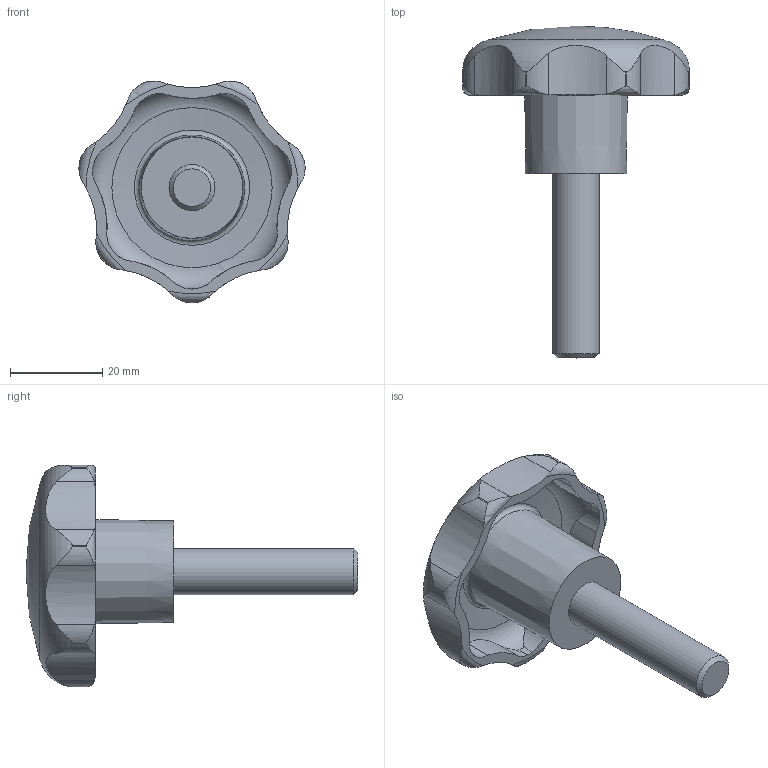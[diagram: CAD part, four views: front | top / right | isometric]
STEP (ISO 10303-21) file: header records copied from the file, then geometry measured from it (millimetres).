
FILE_DESCRIPTION( ( 'STEP AP203' ), '1' );
FILE_NAME( 'C:/Temp/Ganter_Step_05_03_2020/data/2_2/gn_6336_4/gn_6336_4_st/Star knob GN 6336.4-ST-50-M10-40.stp', '2020-03-05T12:07:38', ( 'License CC BY-ND 4.0' ), ( 'CADENAS' ), ' ', 'PARTsolutions', ' ' );
FILE_SCHEMA( ( 'CONFIG_CONTROL_DESIGN' ) );
Length unit declared in the file: millimetre
Products named in the file (1): _Star knob GN 6336.4-ST-50-M10-40
Bounding box: 49.04 x 72 x 48.12 mm (x, y, z)
Volume: 24289.5 mm3; surface area: 8706 mm2
Topology: 1 solids, 1 shells, 74 faces, 209 edges, 138 vertices
Faces by surface type: cylinder 50, torus 10, cone 10, plane 3, sphere 1
Full cylindrical faces by diameter (mm): 10 x1
Entity records: 3234 total; most frequent: CARTESIAN_POINT 1425, ORIENTED_EDGE 394, DIRECTION 334, EDGE_CURVE 197, AXIS2_PLACEMENT_3D 146, VERTEX_POINT 135, B_SPLINE_CURVE_WITH_KNOTS 84, EDGE_LOOP 83
